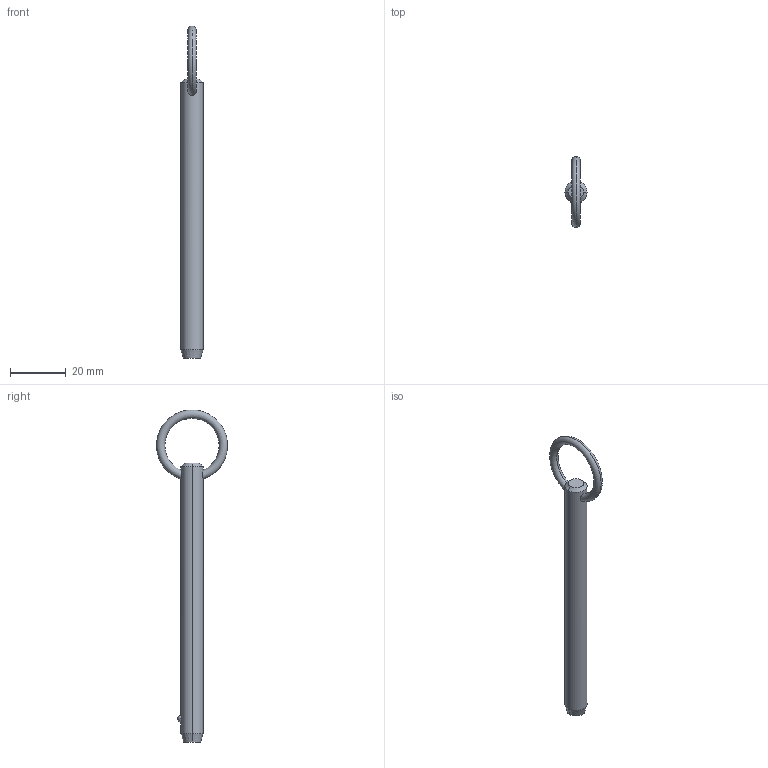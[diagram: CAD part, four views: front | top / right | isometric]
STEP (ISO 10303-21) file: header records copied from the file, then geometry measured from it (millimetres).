
FILE_DESCRIPTION (( 'STEP AP203' ), '1' );
FILE_NAME ('P1250.031-330.step', '2019-07-29T19:53:40', ( '' ), ( '' ), 'SwSTEP 2.0', 'SolidWorks 2017', '' );
FILE_SCHEMA (( 'CONFIG_CONTROL_DESIGN' ));
Length unit declared in the file: millimetre
Products named in the file (1): P1250.031-330
Bounding box: 7.93 x 25.36 x 118.71 mm (x, y, z)
Volume: 5323.2 mm3; surface area: 3118.4 mm2
Topology: 1 solids, 1 shells, 12 faces, 28 edges, 17 vertices
Faces by surface type: cone 4, torus 2, sphere 2, cylinder 2, plane 2
Entity records: 509 total; most frequent: CARTESIAN_POINT 176, DIRECTION 56, ORIENTED_EDGE 48, AXIS2_PLACEMENT_3D 25, EDGE_CURVE 24, VERTEX_POINT 15, EDGE_LOOP 15, FACE_OUTER_BOUND 12
